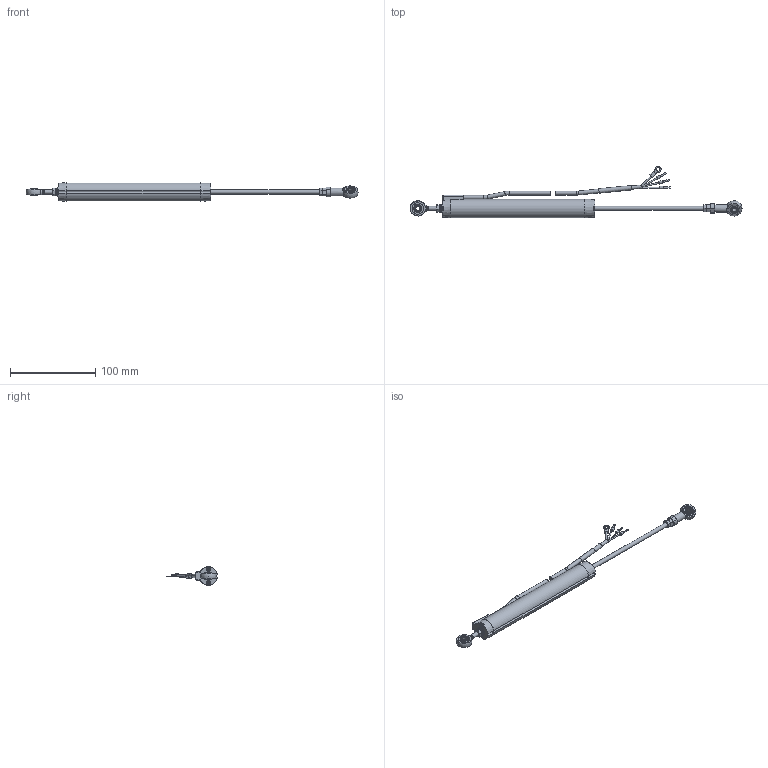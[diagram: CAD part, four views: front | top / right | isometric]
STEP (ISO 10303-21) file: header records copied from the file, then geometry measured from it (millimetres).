
FILE_DESCRIPTION(/* description */ (''),/* implementation_level */ '2;1');
FILE_NAME(/* name */ 'D:\LPPS-22 CAD Drawings\3D\LPPS-22-125\LPPS-22-125 SW.stp',/* time_stamp */ '2021-10-22T13:46:37-04:00',/* author */ ('Justin'),/* organization */ (''),/* preprocessor_version */ 'ST-DEVELOPER v18.1',/* originating_system */ 'Autodesk Inventor 2022',/* authorisation */ '');
FILE_SCHEMA (('AUTOMOTIVE_DESIGN { 1 0 10303 214 3 1 1 }'));
Products named in the file (4): LPPS-22-125 SW; LPPS-22-125_Cable Simplify; LPPS-22-125_Housing Simplify; LPPS-22-125_Shaft Simplify
Assembly tree (3 placements, depth 2):
  LPPS-22-125 SW
    LPPS-22-125_Cable Simplify
    LPPS-22-125_Housing Simplify
    LPPS-22-125_Shaft Simplify
Bounding box: 390.58 x 60.43 x 21.96 mm (x, y, z)
Volume: 45830.1 mm3; surface area: 42191 mm2
Topology: 30 solids, 30 shells, 757 faces, 2739 edges, 2048 vertices
Faces by surface type: cylinder 349, plane 202, cone 142, bspline 28, torus 22, sphere 14
Full cylindrical faces by diameter (mm): 1.27 x3, 1.48 x96, 1.575 x2, 2 x92, 2.286 x5, 3.175 x5, 3.81 x1, 3.881 x1, 4 x4, 4.134 x1, 4.191 x1, 4.342 x12, 4.572 x5, 4.826 x3, 4.851 x1, 4.953 x1, 5 x15, 5.004 x2, 5.08 x1, 5.207 x1, 5.3 x1, 6.35 x2, 9.144 x1, 10 x1, 12.675 x4, 12.7 x1, 15.875 x2, 17.78 x1
Entity records: 45085 total; most frequent: CARTESIAN_POINT 23734, ORIENTED_EDGE 5444, DIRECTION 3368, EDGE_CURVE 2722, VERTEX_POINT 2048, AXIS2_PLACEMENT_3D 1373, EDGE_LOOP 826, STYLED_ITEM 787
